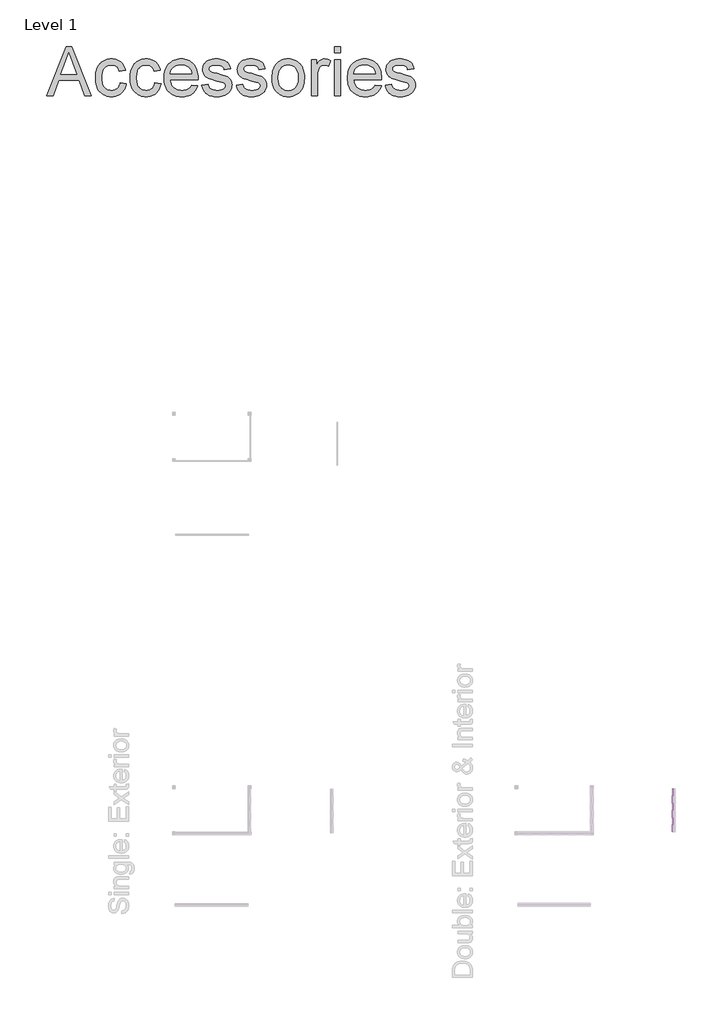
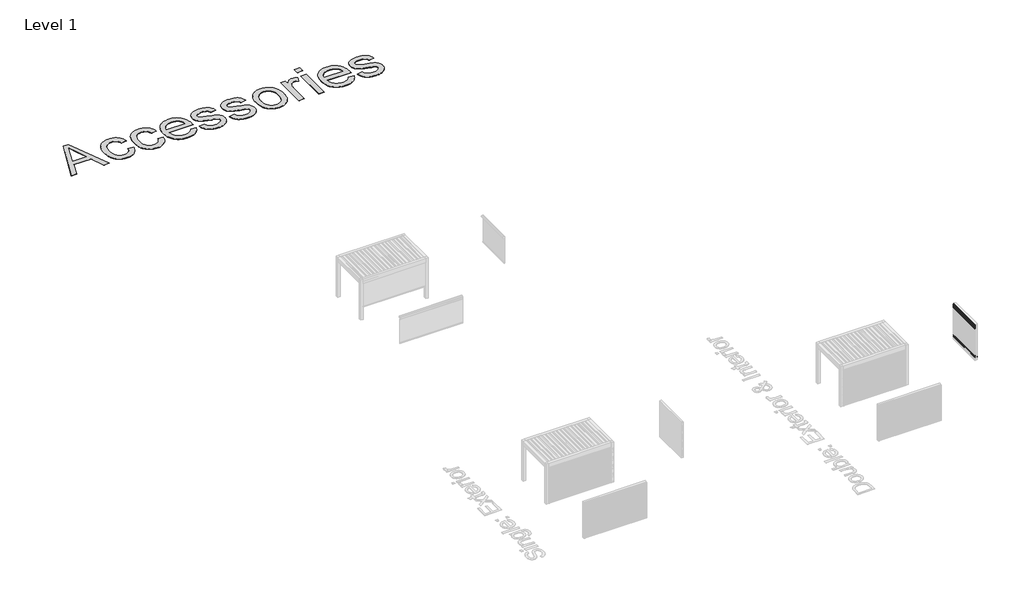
# One storey, part 69 of 69: 13 proxies.
"""IFC4 building model written with IfcOpenShell, lengths in millimetres."""

from ifc_helpers import new_model, si_unit, frame, origin, origin_with_axes, place, context, project, spatial, polyline, outline, extrude, element, save

model = new_model("IFC4")

# Units and contexts
model_context = context("Model", 3, world=origin())
ifc_project = project(units=[si_unit("LENGTHUNIT", "METRE", prefix="MILLI")], contexts=[model_context])

# Site, building, storey
site = spatial("IfcSite", under=ifc_project)
building = spatial("IfcBuilding", under=site)
storey = spatial("IfcBuildingStorey", under=building, Name="Level 1", Elevation=0.0)

# Proxies
placement = place(None, origin())
element("IfcBuildingElementProxy", 1, Name="Wall Sweeps", at=placement, inside=storey, context=model_context, shape_type="SweptSolid", body=[
    extrude(outline(polyline([(1974.0, 232428.6900207), (1960.5, 232428.6900207), (1961.2216933, 232429.9400207), (1973.2782281, 232429.9400207), (1984.3345698, 232449.0900207), (1998.0, 232449.0900207), (1998.0, 232447.8400207), (1985.0562577, 232447.8400207), (1974.0, 232428.6900207)])), frame((0.0, 39672.1593685, 0.0), z_axis=(0.0, 1.0, 0.0), x_axis=(0.0, 0.0, 1.0)), (0.0, 0.0, 1.0), 2200.0),
])
element("IfcBuildingElementProxy", 2, Name="Wall Sweeps", at=placement, inside=storey, context=model_context, shape_type="SweptSolid", body=[
    extrude(outline(polyline([(176.0, 232580.4900207), (187.0562577, 232561.3400207), (200.0, 232561.3400207), (200.0, 232560.0900207), (186.3345698, 232560.0900207), (175.2782281, 232579.2400207), (163.2216933, 232579.2400207), (162.5, 232580.4900207), (176.0, 232580.4900207)])), frame((0.0, 39672.1593685, 0.0), z_axis=(0.0, 1.0, 0.0), x_axis=(0.0, 0.0, 1.0)), (0.0, 0.0, 1.0), 2200.0),
])
element("IfcBuildingElementProxy", 3, Name="Wall Sweeps", at=placement, inside=storey, context=model_context, shape_type="SweptSolid", body=[
    extrude(outline(polyline([(176.0, 232428.6900207), (162.5, 232428.6900207), (163.2216933, 232429.9400207), (175.2782281, 232429.9400207), (186.3345698, 232449.0900207), (200.0, 232449.0900207), (200.0, 232447.8400207), (187.0562577, 232447.8400207), (176.0, 232428.6900207)])), frame((0.0, 39672.1593685, 0.0), z_axis=(0.0, 1.0, 0.0), x_axis=(0.0, 0.0, 1.0)), (0.0, 0.0, 1.0), 2200.0),
])
element("IfcBuildingElementProxy", 4, Name="Wall Sweeps", at=placement, inside=storey, context=model_context, shape_type="SweptSolid", body=[
    extrude(outline(polyline([(2007.3, 232428.6900207), (1993.8, 232428.6900207), (1994.5216933, 232429.9400207), (2006.5782281, 232429.9400207), (2017.6345698, 232449.0900207), (2031.3, 232449.0900207), (2031.3, 232447.8400207), (2018.3562577, 232447.8400207), (2007.3, 232428.6900207)])), frame((0.0, 39672.1593685, 0.0), z_axis=(0.0, 1.0, 0.0), x_axis=(0.0, 0.0, 1.0)), (0.0, 0.0, 1.0), 2200.0),
])
element("IfcBuildingElementProxy", 5, Name="Wall Sweeps", at=placement, inside=storey, context=model_context, shape_type="SweptSolid", body=[
    extrude(outline(polyline([(2040.6, 232428.6900207), (2027.1, 232428.6900207), (2027.8216933, 232429.9400207), (2039.8782281, 232429.9400207), (2050.9345698, 232449.0900207), (2064.6, 232449.0900207), (2064.6, 232447.8400207), (2051.6562577, 232447.8400207), (2040.6, 232428.6900207)])), frame((0.0, 39672.1593685, 0.0), z_axis=(0.0, 1.0, 0.0), x_axis=(0.0, 0.0, 1.0)), (0.0, 0.0, 1.0), 2200.0),
])
element("IfcBuildingElementProxy", 6, Name="Wall Sweeps", at=placement, inside=storey, context=model_context, shape_type="SweptSolid", body=[
    extrude(outline(polyline([(2073.9, 232428.6900207), (2060.4, 232428.6900207), (2061.1216933, 232429.9400207), (2073.1782281, 232429.9400207), (2084.2345698, 232449.0900207), (2097.9, 232449.0900207), (2097.9, 232447.8400207), (2084.9562577, 232447.8400207), (2073.9, 232428.6900207)])), frame((0.0, 39672.1593685, 0.0), z_axis=(0.0, 1.0, 0.0), x_axis=(0.0, 0.0, 1.0)), (0.0, 0.0, 1.0), 2200.0),
])
element("IfcBuildingElementProxy", 7, Name="Wall Sweeps", at=placement, inside=storey, context=model_context, shape_type="SweptSolid", body=[
    extrude(outline(polyline([(2107.2, 232428.6900207), (2093.7, 232428.6900207), (2094.4216933, 232429.9400207), (2106.4782281, 232429.9400207), (2117.5345698, 232449.0900207), (2131.2, 232449.0900207), (2131.2, 232447.8400207), (2118.2562577, 232447.8400207), (2107.2, 232428.6900207)])), frame((0.0, 39672.1593685, 0.0), z_axis=(0.0, 1.0, 0.0), x_axis=(0.0, 0.0, 1.0)), (0.0, 0.0, 1.0), 2200.0),
])
element("IfcBuildingElementProxy", 8, Name="Wall Sweeps", at=placement, inside=storey, context=model_context, shape_type="SweptSolid", body=[
    extrude(outline(polyline([(2140.5, 232428.6900207), (2127.0, 232428.6900207), (2127.7216933, 232429.9400207), (2139.7782281, 232429.9400207), (2150.8345698, 232449.0900207), (2164.5, 232449.0900207), (2164.5, 232447.8400207), (2151.5562577, 232447.8400207), (2140.5, 232428.6900207)])), frame((0.0, 39672.1593685, 0.0), z_axis=(0.0, 1.0, 0.0), x_axis=(0.0, 0.0, 1.0)), (0.0, 0.0, 1.0), 2200.0),
])
element("IfcBuildingElementProxy", 9, Name="Wall Sweeps", at=placement, inside=storey, context=model_context, shape_type="SweptSolid", body=[
    extrude(outline(polyline([(2173.8, 232428.6900207), (2160.3, 232428.6900207), (2161.0216933, 232429.9400207), (2173.0782281, 232429.9400207), (2184.1345698, 232449.0900207), (2197.8, 232449.0900207), (2197.8, 232447.8400207), (2184.8562577, 232447.8400207), (2173.8, 232428.6900207)])), frame((0.0, 39672.1593685, 0.0), z_axis=(0.0, 1.0, 0.0), x_axis=(0.0, 0.0, 1.0)), (0.0, 0.0, 1.0), 2200.0),
])
element("IfcBuildingElementProxy", 10, Name="Wall Sweeps", at=placement, inside=storey, context=model_context, shape_type="SweptSolid", body=[
    extrude(outline(polyline([(2207.1, 232428.6900207), (2193.6, 232428.6900207), (2194.3216933, 232429.9400207), (2206.3782281, 232429.9400207), (2217.4345698, 232449.0900207), (2231.1, 232449.0900207), (2231.1, 232447.8400207), (2218.1562577, 232447.8400207), (2207.1, 232428.6900207)])), frame((0.0, 39672.1593685, 0.0), z_axis=(0.0, 1.0, 0.0), x_axis=(0.0, 0.0, 1.0)), (0.0, 0.0, 1.0), 2200.0),
])
element("IfcBuildingElementProxy", 11, Name="Wall Sweeps", at=placement, inside=storey, context=model_context, shape_type="SweptSolid", body=[
    extrude(outline(polyline([(242.6, 232428.6900207), (229.1, 232428.6900207), (229.8216933, 232429.9400207), (241.8782281, 232429.9400207), (252.9345698, 232449.0900207), (266.6, 232449.0900207), (266.6, 232447.8400207), (253.6562577, 232447.8400207), (242.6, 232428.6900207)])), frame((0.0, 39672.1593685, 0.0), z_axis=(0.0, 1.0, 0.0), x_axis=(0.0, 0.0, 1.0)), (0.0, 0.0, 1.0), 2200.0),
])
element("IfcBuildingElementProxy", 12, Name="Wall Sweeps", at=placement, inside=storey, context=model_context, shape_type="SweptSolid", body=[
    extrude(outline(polyline([(276.0, 232428.6900207), (262.5, 232428.6900207), (263.2216933, 232429.9400207), (275.2782281, 232429.9400207), (286.3345698, 232449.0900207), (300.0, 232449.0900207), (300.0, 232447.8400207), (287.0562577, 232447.8400207), (276.0, 232428.6900207)])), frame((0.0, 39672.1593685, 0.0), z_axis=(0.0, 1.0, 0.0), x_axis=(0.0, 0.0, 1.0)), (0.0, 0.0, 1.0), 2200.0),
])
element("IfcBuildingElementProxy", 13, Name="2500 mm Arial", ObjectType="2500 mm Arial", at=placement, inside=storey, context=model_context, shape_type="SweptSolid", body=[
    extrude(outline(polyline([(200568.2000815, 77108.8344652), (201570.6785183, 79620.2422189), (201838.0061015, 79620.2422189), (202840.4845383, 77108.8344652), (202508.777606, 77108.8344652), (202221.2165131, 77893.6493882), (201186.85497, 77893.6493882), (200899.9070138, 77108.8344652), (200568.2000815, 77108.8344652)]), holes=[polyline([(201302.1246618, 78207.5753575), (202106.559958, 78207.5753575), (201880.3125309, 78825.0039727), (201704.3423099, 79306.3162497), (201547.992462, 78878.9599987), (201302.1246618, 78207.5753575)])]), origin_with_axes(), (0.0, 0.0, 1.0), 5.0),
    extrude(outline(polyline([(204313.851929, 77775.9271498), (204627.7778982, 77736.6864036), (204613.1105197, 77660.4898034), (204593.6338506, 77588.556419), (204569.3478907, 77520.8862505), (204540.2526402, 77457.4792977), (204506.3480991, 77398.3355608), (204467.6342672, 77343.4550397), (204424.1111447, 77292.8377345), (204375.7787316, 77246.4836451), (204323.604634, 77205.0250687), (204268.5564584, 77169.0943024), (204210.6342047, 77138.6913464), (204149.8378728, 77113.8162006), (204086.167463, 77094.4688649), (204019.622975, 77080.6493394), (203950.2044089, 77072.3576241), (203877.9117647, 77069.593719), (203787.6034411, 77073.4497738), (203701.8457411, 77085.0179381), (203620.6386648, 77104.298212), (203543.982212, 77131.2905953), (203471.876383, 77165.9950882), (203404.3211775, 77208.4116907), (203341.3165957, 77258.5404026), (203282.8626375, 77316.3812241), (203230.1951566, 77381.4264014), (203184.5500064, 77453.1681806), (203145.9271871, 77531.6065617), (203114.3266985, 77616.7415448), (203089.7485407, 77708.5731298), (203072.1927137, 77807.1013168), (203061.6592176, 77912.3261057), (203058.1480522, 78024.2474965), (203064.1452951, 78168.5836981), (203071.6418488, 78237.259794), (203082.1370239, 78303.6078866), (203095.6308205, 78367.627976), (203112.1232386, 78429.3200622), (203131.6142782, 78488.6841451), (203154.1039392, 78545.7202247), (203179.6640737, 78599.8439052), (203208.3665335, 78650.4707907), (203240.2113187, 78697.6008812), (203275.1984293, 78741.2341767), (203313.3278653, 78781.3706772), (203354.5996266, 78818.0103827), (203399.0137133, 78851.1532932), (203446.5701254, 78880.7994086), (203496.2294046, 78906.9535192), (203546.9520927, 78929.6204151), (203598.7381897, 78948.8000962), (203651.5876956, 78964.4925625), (203705.5006104, 78976.6978141), (203760.4769341, 78985.415851), (203816.5166667, 78990.6466731), (203873.6198081, 78992.3902805), (203944.9208954, 78989.9952154), (204012.8976322, 78982.8100202), (204077.5500188, 78970.8346949), (204138.8780551, 78954.0692393), (204196.881741, 78932.5136537), (204251.5610766, 78906.1679379), (204302.9160619, 78875.0320919), (204350.9466969, 78839.1061158), (204395.2314501, 78798.77322), (204435.34879, 78754.4166149), (204471.2987168, 78706.0363004), (204503.0812303, 78653.6322766), (204530.6963306, 78597.2045435), (204554.1440176, 78536.7531011), (204573.4242915, 78472.2779493), (204588.5371521, 78403.7790882), (204274.6111829, 78364.5383421), (204250.1048771, 78437.8656543), (204217.6661157, 78501.4977432), (204177.2948988, 78555.4346086), (204128.9912265, 78599.6762507), (204073.9813719, 78634.1460272), (204013.4916084, 78658.7672961), (203947.521936, 78673.5400575), (203876.0723548, 78678.4643113), (203821.4313402, 78676.0405054), (203769.4057367, 78668.7690879), (203719.9955442, 78656.6500586), (203673.2007628, 78639.6834176), (203629.0213925, 78617.8691649), (203587.4574332, 78591.2073006), (203548.508885, 78559.6978245), (203512.1757479, 78523.3407367), (203479.3394057, 78481.7432465), (203450.8812425, 78434.5125632), (203426.8012583, 78381.648687), (203407.099453, 78323.1516176), (203391.7758267, 78259.0213552), (203380.8303793, 78189.2578998), (203374.2631109, 78113.8612513), (203372.0740214, 78032.8314098), (203374.2152096, 77950.5226035), (203380.6387741, 77874.0481757), (203391.344715, 77803.4081264), (203406.3330322, 77738.6024557), (203425.6037258, 77679.6311635), (203449.1567957, 77626.4942498), (203476.992242, 77579.1917146), (203509.1100646, 77537.7235579), (203544.6863612, 77501.582026), (203582.8972293, 77470.2593649), (203623.7426691, 77443.7555748), (203667.2226804, 77422.0706557), (203713.3372633, 77405.2046074), (203762.0864178, 77393.1574301), (203813.4701439, 77385.9291237), (203867.4884415, 77383.5196883), (203952.4270293, 77389.5360917), (203992.1515786, 77397.0565961), (204030.0462982, 77407.5853021), (204066.111188, 77421.1222099), (204100.3462482, 77437.6673194), (204132.7514786, 77457.2206307), (204163.3268793, 77479.7821437), (204191.6317584, 77505.4668215), (204217.2254237, 77534.3896273), (204240.1078754, 77566.5505611), (204260.2791135, 77601.9496229), (204277.7391379, 77640.5868127), (204292.4879486, 77682.4621304), (204304.5255456, 77727.5755761), (204313.851929, 77775.9271498)])), origin_with_axes(), (0.0, 0.0, 1.0), 5.0),
    extrude(outline(polyline([(206079.6855059, 77775.9271498), (206393.6114751, 77736.6864036), (206378.9440966, 77660.4898034), (206359.4674274, 77588.556419), (206335.1814676, 77520.8862505), (206306.0862171, 77457.4792977), (206272.1816759, 77398.3355608), (206233.4678441, 77343.4550397), (206189.9447216, 77292.8377345), (206141.6123084, 77246.4836451), (206089.4382109, 77205.0250687), (206034.3900352, 77169.0943024), (205976.4677815, 77138.6913464), (205915.6714497, 77113.8162006), (205852.0010398, 77094.4688649), (205785.4565518, 77080.6493394), (205716.0379857, 77072.3576241), (205643.7453416, 77069.593719), (205553.437018, 77073.4497738), (205467.679318, 77085.0179381), (205386.4722416, 77104.298212), (205309.8157889, 77131.2905953), (205237.7099598, 77165.9950882), (205170.1547544, 77208.4116907), (205107.1501726, 77258.5404026), (205048.6962144, 77316.3812241), (204996.0287334, 77381.4264014), (204950.3835833, 77453.1681806), (204911.7607639, 77531.6065617), (204880.1602754, 77616.7415448), (204855.5821176, 77708.5731298), (204838.0262906, 77807.1013168), (204827.4927944, 77912.3261057), (204823.981629, 78024.2474965), (204829.9788719, 78168.5836981), (204837.4754256, 78237.259794), (204847.9706008, 78303.6078866), (204861.4643974, 78367.627976), (204877.9568155, 78429.3200622), (204897.447855, 78488.6841451), (204919.9375161, 78545.7202247), (204945.4976505, 78599.8439052), (204974.2001104, 78650.4707907), (205006.0448956, 78697.6008812), (205041.0320062, 78741.2341767), (205079.1614421, 78781.3706772), (205120.4332035, 78818.0103827), (205164.8472902, 78851.1532932), (205212.4037022, 78880.7994086), (205262.0629815, 78906.9535192), (205312.7856696, 78929.6204151), (205364.5717666, 78948.8000962), (205417.4212725, 78964.4925625), (205471.3341873, 78976.6978141), (205526.3105109, 78985.415851), (205582.3502435, 78990.6466731), (205639.453385, 78992.3902805), (205710.7544722, 78989.9952154), (205778.7312091, 78982.8100202), (205843.3835957, 78970.8346949), (205904.7116319, 78954.0692393), (205962.7153179, 78932.5136537), (206017.3946535, 78906.1679379), (206068.7496388, 78875.0320919), (206116.7802737, 78839.1061158), (206161.0650269, 78798.77322), (206201.1823669, 78754.4166149), (206237.1322936, 78706.0363004), (206268.9148071, 78653.6322766), (206296.5299074, 78597.2045435), (206319.9775945, 78536.7531011), (206339.2578683, 78472.2779493), (206354.3707289, 78403.7790882), (206040.4447597, 78364.5383421), (206015.9384539, 78437.8656543), (205983.4996926, 78501.4977432), (205943.1284757, 78555.4346086), (205894.8248033, 78599.6762507), (205839.8149487, 78634.1460272), (205779.3251852, 78658.7672961), (205713.3555129, 78673.5400575), (205641.9059316, 78678.4643113), (205587.264917, 78676.0405054), (205535.2393135, 78668.7690879), (205485.8291211, 78656.6500586), (205439.0343397, 78639.6834176), (205394.8549694, 78617.8691649), (205353.2910101, 78591.2073006), (205314.3424619, 78559.6978245), (205278.0093247, 78523.3407367), (205245.1729826, 78481.7432465), (205216.7148194, 78434.5125632), (205192.6348351, 78381.648687), (205172.9330298, 78323.1516176), (205157.6094035, 78259.0213552), (205146.6639561, 78189.2578998), (205140.0966877, 78113.8612513), (205137.9075982, 78032.8314098), (205140.0487864, 77950.5226035), (205146.4723509, 77874.0481757), (205157.1782918, 77803.4081264), (205172.166609, 77738.6024557), (205191.4373026, 77679.6311635), (205214.9903725, 77626.4942498), (205242.8258188, 77579.1917146), (205274.9436414, 77537.7235579), (205310.519938, 77501.582026), (205348.7308062, 77470.2593649), (205389.5762459, 77443.7555748), (205433.0562573, 77422.0706557), (205479.1708402, 77405.2046074), (205527.9199947, 77393.1574301), (205579.3037207, 77385.9291237), (205633.3220184, 77383.5196883), (205718.2606061, 77389.5360917), (205757.9851554, 77397.0565961), (205795.879875, 77407.5853021), (205831.9447649, 77421.1222099), (205866.179825, 77437.6673194), (205898.5850555, 77457.2206307), (205929.1604562, 77479.7821437), (205957.4653352, 77505.4668215), (205983.0590006, 77534.3896273), (206005.9414523, 77566.5505611), (206026.1126903, 77601.9496229), (206043.5727147, 77640.5868127), (206058.3215254, 77682.4621304), (206070.3591225, 77727.5755761), (206079.6855059, 77775.9271498)])), origin_with_axes(), (0.0, 0.0, 1.0), 5.0),
    extrude(outline(polyline([(207959.5625012, 77658.2049113), (208267.3571039, 77618.9641652), (208245.8254689, 77555.4949408), (208220.1647417, 77495.6853758), (208190.3749223, 77439.5354702), (208156.4560107, 77387.0452241), (208118.408007, 77338.2146374), (208076.2309111, 77293.0437101), (208029.9247229, 77251.5324422), (207979.4894426, 77213.6808338), (207925.1741569, 77179.9104163), (207867.2279525, 77150.6427211), (207805.6508295, 77125.8777483), (207740.4427879, 77105.6154977), (207671.6038275, 77089.8559696), (207599.1339486, 77078.5991637), (207523.0331509, 77071.8450802), (207443.3014347, 77069.593719), (207343.2547764, 77073.4785146), (207248.5155824, 77085.1329012), (207159.0838526, 77104.556879), (207074.959587, 77131.7504478), (206996.1427856, 77166.7136077), (206922.6334484, 77209.4463588), (206854.4315754, 77259.9487009), (206791.5371665, 77318.2206341), (206735.0615321, 77383.5053179), (206686.1159823, 77455.0459116), (206644.7005171, 77532.8424153), (206610.8151364, 77616.894829), (206584.4598404, 77707.2031526), (206565.6346289, 77803.7673862), (206554.339502, 77906.5875298), (206550.5744597, 78015.6635833), (206554.377823, 78128.4519877), (206565.787913, 78234.7449756), (206584.8047297, 78334.5425471), (206611.4282731, 78427.8447021), (206645.6585431, 78514.6514406), (206687.4955398, 78594.9627626), (206736.9392631, 78668.7786681), (206793.9897132, 78736.0991572), (206857.104468, 78796.1673892), (206924.7411056, 78848.2265236), (206996.8996261, 78892.2765605), (207073.5800295, 78928.3174997), (207154.7823157, 78956.3493413), (207240.5064848, 78976.3720853), (207330.7525368, 78988.3857317), (207425.5204716, 78992.3902805), (207517.1891922, 78988.395312), (207604.5755364, 78976.4104063), (207687.6795043, 78956.4355636), (207766.5010958, 78928.4707838), (207841.040311, 78892.516067), (207911.2971499, 78848.571413), (207977.2716124, 78796.636822), (208038.9636985, 78736.7122939), (208094.7926654, 78669.545089), (208143.17777, 78595.8824676), (208184.1190123, 78515.7244297), (208217.6163924, 78429.0709754), (208243.6699103, 78335.9221046), (208262.2795659, 78236.2778173), (208273.4453593, 78130.1381135), (208277.1672904, 78017.5029933), (208275.3278804, 77932.8901344), (206864.5004289, 77932.8901344), (206871.3455249, 77868.3095998), (206882.683763, 77807.6186508), (206898.5151431, 77750.8172876), (206918.8396653, 77697.90551), (206943.6573296, 77648.8833181), (206972.9681359, 77603.7507118), (207006.7720844, 77562.5076913), (207045.0691749, 77525.1542564), (207086.8630604, 77491.9586545), (207131.1573939, 77463.1891328), (207177.9521753, 77438.8456914), (207227.2474046, 77418.9283303), (207279.0430818, 77403.4370494), (207333.339207, 77392.3718488), (207390.1357802, 77385.7327284), (207449.4328013, 77383.5196883), (207536.2682805, 77387.6200397), (207616.5125407, 77399.9210939), (207690.1655818, 77420.4228509), (207757.2274039, 77449.1253107), (207817.6980068, 77486.7948942), (207871.5773907, 77534.1980221), (207918.8655555, 77591.3346945), (207959.5625012, 77658.2049113)]), holes=[polyline([(206864.5004289, 78246.8161036), (207963.2413212, 78246.8161036), (207947.1081629, 78335.644277), (207935.2190598, 78375.6322835), (207920.7816076, 78412.6695698), (207903.7958061, 78446.7561359), (207884.2616553, 78477.8919818), (207862.1791554, 78506.0771076), (207837.5483062, 78531.3115132), (207796.2190633, 78565.8004503), (207751.9391002, 78595.6908624), (207704.708417, 78620.9827495), (207654.5270136, 78641.6761118), (207601.39489, 78657.7709491), (207545.3120462, 78669.2672614), (207486.2784823, 78676.1650488), (207424.2941982, 78678.4643113), (207367.9574776, 78676.6296914), (207313.9104392, 78671.1258319), (207262.153083, 78661.9527327), (207212.6854089, 78649.1103938), (207165.5074171, 78632.5988151), (207120.6191075, 78612.4179968), (207078.0204802, 78588.5679388), (207037.711535, 78561.0486412), (207000.7365204, 78530.4540799), (206968.1396848, 78497.3782313), (206939.9210281, 78461.8210952), (206916.0805503, 78423.7826717), (206896.6182515, 78383.2629608), (206881.5341317, 78340.2619625), (206870.8281908, 78294.7796768), (206864.5004289, 78246.8161036)])]), origin_with_axes(), (0.0, 0.0, 1.0), 5.0),
    extrude(outline(polyline([(208473.3710212, 77658.2049113), (208787.2969904, 77697.4456575), (208795.3348288, 77660.5424948), (208806.2659058, 77625.8619526), (208820.0902214, 77593.4040307), (208836.8077756, 77563.1687292), (208856.4185684, 77535.1560482), (208878.9225998, 77509.3659875), (208904.3198698, 77485.7985471), (208932.6103785, 77464.4537272), (208963.8324468, 77445.4848118), (208998.0243957, 77429.0450852), (209035.1862254, 77415.1345472), (209075.3179358, 77403.753198), (209164.4909986, 77388.5780657), (209265.5435841, 77383.5196883), (209366.4812065, 77388.1565342), (209453.46997, 77402.0670722), (209491.7335296, 77412.4999756), (209526.5098744, 77425.2513021), (209557.7990045, 77440.3210515), (209585.6009199, 77457.709224), (209631.2029589, 77496.4134755), (209663.7758439, 77538.3366946), (209675.1763536, 77560.5054169), (209683.3195749, 77583.4788811), (209688.2055076, 77607.2570871), (209689.8341519, 77631.840035), (209688.1959274, 77653.6255469), (209683.2812538, 77674.2231065), (209675.0901313, 77693.6327139), (209663.6225597, 77711.854369), (209630.8580695, 77744.7338223), (209584.9877833, 77772.8614665), (209537.2014449, 77791.5621346), (209467.418829, 77812.7153493), (209261.8647642, 77862.3794187), (209106.0897318, 77905.3181453), (208975.3766604, 77945.2295097), (208869.7255499, 77982.1135118), (208789.1364004, 78015.9701516), (208725.1977432, 78051.4362752), (208669.4981098, 78093.1487285), (208622.0375004, 78141.1075116), (208582.8159147, 78195.3126243), (208552.1016002, 78254.1354225), (208530.1628042, 78315.9472619), (208516.9995265, 78380.7481425), (208512.6117673, 78448.5380643), (208516.1373031, 78510.5223484), (208526.7139105, 78570.169049), (208544.3415894, 78627.478166), (208569.0203399, 78682.4496996), (208599.792136, 78733.9723394), (208635.6989515, 78780.9347754), (208676.7407866, 78823.3370074), (208722.9176412, 78861.1790356), (208762.9822898, 78887.4481093), (208809.5998363, 78911.6861678), (208862.770281, 78933.8932112), (208922.4936236, 78954.0692393), (208986.623886, 78970.8346949), (209053.0150898, 78982.8100202), (209121.6672351, 78989.9952154), (209192.5803217, 78992.3902805), (209298.0781481, 78988.5390159), (209396.9081132, 78976.985222), (209489.0702172, 78957.7288988), (209574.5644601, 78930.7700463), (209651.3598266, 78897.2391353), (209717.4253015, 78858.2666364), (209772.760885, 78813.8525497), (209817.3665769, 78763.9968752), (209853.5416397, 78706.9560054), (209883.585336, 78640.986333), (209907.4976657, 78566.0878581), (209925.2786288, 78482.2605805), (209611.3526596, 78443.0198344), (209596.388293, 78495.4621792), (209571.728703, 78541.8114785), (209537.3738896, 78582.0677322), (209493.3238528, 78616.2309404), (209439.3869874, 78643.4580402), (209375.3716881, 78662.9059686), (209301.277955, 78674.5747256), (209217.1057881, 78678.4643113), (209119.4637752, 78674.7471703), (209036.8436104, 78663.5957473), (208969.2452938, 78645.0100424), (208941.0793286, 78632.9293341), (208916.6688253, 78618.9900554), (208877.236474, 78588.0266541), (208849.0705087, 78554.6107062), (208832.1709296, 78518.7422117), (208826.5377365, 78480.4211706), (208828.87532, 78455.6274569), (208835.8880706, 78432.1366587), (208847.5759881, 78409.9487759), (208863.9390727, 78389.0638084), (208885.2838926, 78368.8686197), (208911.9170162, 78350.5894831), (208943.8384435, 78334.2263985), (208981.0481745, 78319.779366), (209071.6391158, 78295.7137521), (209251.441441, 78252.9474702), (209528.8091369, 78170.9404421), (209632.2567875, 78136.0299736), (209712.2136399, 78105.1815355), (209776.7462732, 78073.106824), (209833.9212667, 78034.5175356), (209883.7386202, 77989.4136701), (209926.1983338, 77937.7952277), (209960.1316157, 77879.5855661), (209984.3696743, 77814.7080434), (209998.9125094, 77743.1626596), (210003.7601211, 77664.9494146), (209998.0694465, 77586.3912802), (209980.9974226, 77510.1324083), (209952.5440496, 77436.1727988), (209912.7093273, 77364.5124518), (209888.6868246, 77330.2582312), (209862.1447135, 77298.0062849), (209833.0829939, 77267.756613), (209801.5016658, 77239.5092156), (209730.7801844, 77189.0212438), (209649.9802691, 77146.5423697), (209561.3053798, 77112.877335), (209466.9589765, 77088.8308817), (209366.941059, 77074.4030097), (209261.2516275, 77069.593719), (209174.0999996, 77071.912142), (209092.294157, 77078.867411), (209015.8340996, 77090.459526), (208944.7198275, 77106.6884869), (208878.9513406, 77127.5542938), (208818.5286389, 77153.0569467), (208763.4517225, 77183.1964456), (208713.7205913, 77217.9727904), (208668.7891706, 77257.3093392), (208628.1113854, 77301.1294498), (208591.6872358, 77349.4331222), (208559.5167217, 77402.2203564), (208531.5998432, 77459.4911524), (208507.9366003, 77521.2455102), (208488.5269929, 77587.4834299), (208473.3710212, 77658.2049113)])), origin_with_axes(), (0.0, 0.0, 1.0), 5.0),
    extrude(outline(polyline([(210239.204598, 77658.2049113), (210553.1305672, 77697.4456575), (210561.1684056, 77660.5424948), (210572.0994826, 77625.8619526), (210585.9237982, 77593.4040307), (210602.6413524, 77563.1687292), (210622.2521452, 77535.1560482), (210644.7561767, 77509.3659875), (210670.1534467, 77485.7985471), (210698.4439553, 77464.4537272), (210729.6660236, 77445.4848118), (210763.8579726, 77429.0450852), (210801.0198023, 77415.1345472), (210841.1515126, 77403.753198), (210930.3245754, 77388.5780657), (211031.377161, 77383.5196883), (211132.3147834, 77388.1565342), (211219.3035468, 77402.0670722), (211257.5671064, 77412.4999756), (211292.3434513, 77425.2513021), (211323.6325814, 77440.3210515), (211351.4344968, 77457.709224), (211397.0365357, 77496.4134755), (211429.6094207, 77538.3366946), (211441.0099305, 77560.5054169), (211449.1531517, 77583.4788811), (211454.0390845, 77607.2570871), (211455.6677287, 77631.840035), (211454.0295042, 77653.6255469), (211449.1148307, 77674.2231065), (211440.9237081, 77693.6327139), (211429.4561366, 77711.854369), (211396.6916464, 77744.7338223), (211350.8213601, 77772.8614665), (211303.0350218, 77791.5621346), (211233.2524058, 77812.7153493), (211027.698341, 77862.3794187), (210871.9233087, 77905.3181453), (210741.2102373, 77945.2295097), (210635.5591268, 77982.1135118), (210554.9699772, 78015.9701516), (210491.03132, 78051.4362752), (210435.3316867, 78093.1487285), (210387.8710772, 78141.1075116), (210348.6494916, 78195.3126243), (210317.9351771, 78254.1354225), (210295.996381, 78315.9472619), (210282.8331034, 78380.7481425), (210278.4453442, 78448.5380643), (210281.9708799, 78510.5223484), (210292.5474873, 78570.169049), (210310.1751662, 78627.478166), (210334.8539168, 78682.4496996), (210365.6257128, 78733.9723394), (210401.5325284, 78780.9347754), (210442.5743635, 78823.3370074), (210488.7512181, 78861.1790356), (210528.8158666, 78887.4481093), (210575.4334132, 78911.6861678), (210628.6038578, 78933.8932112), (210688.3272005, 78954.0692393), (210752.4574628, 78970.8346949), (210818.8486667, 78982.8100202), (210887.5008119, 78989.9952154), (210958.4138986, 78992.3902805), (211063.9117249, 78988.5390159), (211162.7416901, 78976.985222), (211254.9037941, 78957.7288988), (211340.3980369, 78930.7700463), (211417.1934034, 78897.2391353), (211483.2588784, 78858.2666364), (211538.5944618, 78813.8525497), (211583.2001537, 78763.9968752), (211619.3752166, 78706.9560054), (211649.4189129, 78640.986333), (211673.3312425, 78566.0878581), (211691.1122056, 78482.2605805), (211377.1862364, 78443.0198344), (211362.2218698, 78495.4621792), (211337.5622799, 78541.8114785), (211303.2074665, 78582.0677322), (211259.1574296, 78616.2309404), (211205.2205642, 78643.4580402), (211141.2052649, 78662.9059686), (211067.1115318, 78674.5747256), (210982.9393649, 78678.4643113), (210885.297352, 78674.7471703), (210802.6771873, 78663.5957473), (210735.0788707, 78645.0100424), (210706.9129054, 78632.9293341), (210682.5024022, 78618.9900554), (210643.0700508, 78588.0266541), (210614.9040856, 78554.6107062), (210598.0045064, 78518.7422117), (210592.3713134, 78480.4211706), (210594.7088969, 78455.6274569), (210601.7216474, 78432.1366587), (210613.409565, 78409.9487759), (210629.7726496, 78389.0638084), (210651.1174695, 78368.8686197), (210677.7505931, 78350.5894831), (210709.6720204, 78334.2263985), (210746.8817514, 78319.779366), (210837.4726927, 78295.7137521), (211017.2750178, 78252.9474702), (211294.6427138, 78170.9404421), (211398.0903644, 78136.0299736), (211478.0472168, 78105.1815355), (211542.5798501, 78073.106824), (211599.7548435, 78034.5175356), (211649.572197, 77989.4136701), (211692.0319106, 77937.7952277), (211725.9651926, 77879.5855661), (211750.2032511, 77814.7080434), (211764.7460862, 77743.1626596), (211769.5936979, 77664.9494146), (211763.9030233, 77586.3912802), (211746.8309995, 77510.1324083), (211718.3776264, 77436.1727988), (211678.5429041, 77364.5124518), (211654.5204015, 77330.2582312), (211627.9782903, 77298.0062849), (211598.9165707, 77267.756613), (211567.3352427, 77239.5092156), (211496.6137612, 77189.0212438), (211415.8138459, 77146.5423697), (211327.1389567, 77112.877335), (211232.7925533, 77088.8308817), (211132.7746359, 77074.4030097), (211027.0852043, 77069.593719), (210939.9335765, 77071.912142), (210858.1277339, 77078.867411), (210781.6676765, 77090.459526), (210710.5534043, 77106.6884869), (210644.7849174, 77127.5542938), (210584.3622158, 77153.0569467), (210529.2852994, 77183.1964456), (210479.5541682, 77217.9727904), (210434.6227474, 77257.3093392), (210393.9449622, 77301.1294498), (210357.5208126, 77349.4331222), (210325.3502985, 77402.2203564), (210297.4334201, 77459.4911524), (210273.7701771, 77521.2455102), (210254.3605698, 77587.4834299), (210239.204598, 77658.2049113)])), origin_with_axes(), (0.0, 0.0, 1.0), 5.0),
    extrude(outline(polyline([(212044.278921, 78030.9919998), (212048.5229763, 78154.5486168), (212061.2551422, 78269.8470494), (212082.4754188, 78376.8872976), (212112.183806, 78475.6693614), (212150.3803037, 78566.1932409), (212197.0649121, 78648.4589361), (212252.2376311, 78722.4664468), (212315.8984608, 78788.2157732), (212374.1656039, 78836.0691733), (212435.5367513, 78877.5421201), (212500.0119031, 78912.6346136), (212567.5910591, 78941.3466537), (212638.2742196, 78963.6782404), (212712.0613843, 78979.6293738), (212788.9525534, 78989.2000538), (212868.9477269, 78992.3902805), (212957.617826, 78988.505485), (213042.1396724, 78976.8510983), (213122.5132661, 78957.4271206), (213198.7386071, 78930.2335517), (213270.8156954, 78895.2703918), (213338.744531, 78852.5376408), (213402.5251139, 78802.0352987), (213462.1574441, 78743.7633654), (213516.1182602, 78678.6415461), (213562.8843008, 78607.5895457), (213602.4555659, 78530.6073641), (213634.8320556, 78447.6950014), (213660.0137697, 78358.8524576), (213678.0007084, 78264.0797327), (213688.7928717, 78163.3768266), (213692.3902594, 78056.7437394), (213690.7999362, 77970.3585324), (213686.0289666, 77888.7059739), (213678.0773505, 77811.7860641), (213666.9450881, 77739.5988028), (213652.6321792, 77672.1441901), (213635.1386239, 77609.4222259), (213614.4644222, 77551.4329104), (213590.6095741, 77498.1762434), (213563.7129933, 77448.7085694), (213533.9135937, 77402.0862327), (213501.2113752, 77358.3092333), (213465.6063378, 77317.3775712), (213427.0984816, 77279.2912464), (213385.6878064, 77244.0502589), (213341.3743125, 77211.6546088), (213294.1579996, 77182.1042959), (213244.9298321, 77155.7346295), (213194.5807742, 77132.8809185), (213143.1108257, 77113.5431631), (213090.5199869, 77097.7213633), (213036.8082576, 77085.4155189), (212981.9756378, 77076.6256301), (212926.0221275, 77071.3516968), (212868.9477269, 77069.593719), (212778.8789097, 77073.4641442), (212693.2265926, 77085.0754197), (212611.9907755, 77104.4275455), (212535.1714583, 77131.5205216), (212462.7686412, 77166.354348), (212394.782324, 77208.9290247), (212331.2125069, 77259.2445518), (212272.0591897, 77317.3009291), (212218.6731892, 77382.6383043), (212172.4053221, 77454.7968248), (212133.2555885, 77533.7764907), (212101.2239882, 77619.5773018), (212076.3105213, 77712.1992583), (212058.5151878, 77811.6423602), (212047.8379877, 77917.9066073), (212044.278921, 78030.9919998)]), holes=[polyline([(212358.2048902, 78031.6051364), (212360.4754119, 77952.9176685), (212367.286977, 77879.3364794), (212378.6395854, 77810.8615689), (212394.5332373, 77747.4929372), (212414.9679325, 77689.2305843), (212439.943671, 77636.0745101), (212469.460453, 77588.0247146), (212503.5182783, 77545.0811978), (212541.0154171, 77507.215219), (212580.8501394, 77474.3980374), (212623.0224452, 77446.6296529), (212667.5323345, 77423.9100657), (212714.3798073, 77406.2392755), (212763.5648637, 77393.6172826), (212815.0875035, 77386.0440869), (212868.9477269, 77383.5196883), (212922.5205424, 77386.0584572), (212973.7940955, 77393.6747642), (213022.7683861, 77406.3686091), (213069.4434142, 77424.1399919), (213113.8191799, 77446.9889127), (213155.8956831, 77474.9153714), (213195.6729238, 77507.9193681), (213233.1509021, 77546.0009028), (213267.2087274, 77589.2845188), (213296.7255094, 77637.8947595), (213321.701248, 77691.831625), (213342.1359432, 77751.0951151), (213358.029595, 77815.68523), (213369.3822034, 77885.6019696), (213376.1937685, 77960.8453339), (213378.4642902, 78041.415323), (213376.1793981, 78117.5161206), (213369.3247219, 78188.8555289), (213357.9002615, 78255.4335477), (213341.9060169, 78317.2501773), (213321.3419882, 78374.3054174), (213296.2081753, 78426.5992682), (213266.5045783, 78474.1317297), (213232.2311971, 78516.9028017), (213194.5664038, 78554.7687805), (213154.6885703, 78587.5859622), (213112.5976967, 78615.3543466), (213068.293783, 78638.0739339), (213021.7768292, 78655.744724), (212973.0468352, 78668.3667169), (212922.1038011, 78675.9399127), (212868.9477269, 78678.4643113), (212815.0875035, 78675.949493), (212763.5648637, 78668.405038), (212714.3798073, 78655.8309464), (212667.5323345, 78638.2272181), (212623.0224452, 78615.5938531), (212580.8501394, 78587.9308515), (212541.0154171, 78555.2382133), (212503.5182783, 78517.5159384), (212469.460453, 78474.7161255), (212439.943671, 78426.7908734), (212414.9679325, 78373.7401821), (212394.5332373, 78315.5640515), (212378.6395854, 78252.2624816), (212367.286977, 78183.8354725), (212360.4754119, 78110.2830241), (212358.2048902, 78031.6051364)])]), origin_with_axes(), (0.0, 0.0, 1.0), 5.0),
    extrude(outline(polyline([(214045.5569748, 77108.8344652), (214045.5569748, 78953.1495344), (214320.2421978, 78953.1495344), (214320.2421978, 78680.3037213), (214371.9756034, 78767.522411), (214421.7163148, 78838.4929792), (214469.4643321, 78893.215426), (214515.2196553, 78931.6897513), (214561.0516205, 78958.2462328), (214609.0295641, 78977.2151482), (214659.1534859, 78988.5964974), (214711.423386, 78992.3902805), (214789.2917417, 78986.335556), (214867.773234, 78968.1713825), (214946.867863, 78937.89776), (215026.5756286, 78895.5146884), (214921.72926, 78614.0849621), (214866.5469607, 78642.2509274), (214811.3646614, 78662.369474), (214756.1823621, 78674.440602), (214701.0000628, 78678.4643113), (214652.8879957, 78674.5938861), (214607.2667962, 78662.9826107), (214564.1364643, 78643.6304849), (214523.4970002, 78616.5375088), (214486.8812453, 78582.5850663), (214455.8220415, 78542.6545414), (214430.3193886, 78496.7459341), (214410.3732867, 78444.8592444), (214388.1087617, 78359.1733963), (214372.2055297, 78269.50216), (214362.6635904, 78175.8455354), (214359.482944, 78078.2035225), (214359.482944, 77108.8344652), (214045.5569748, 77108.8344652)])), origin_with_axes(), (0.0, 0.0, 1.0), 5.0),
    extrude(outline(polyline([(215222.7793593, 79306.3162497), (215222.7793593, 79620.2422189), (215536.7053286, 79620.2422189), (215536.7053286, 79306.3162497), (215222.7793593, 79306.3162497)])), origin_with_axes(), (0.0, 0.0, 1.0), 5.0),
    extrude(outline(polyline([(215222.7793593, 77108.8344652), (215222.7793593, 78953.1495344), (215536.7053286, 78953.1495344), (215536.7053286, 77108.8344652), (215222.7793593, 77108.8344652)])), origin_with_axes(), (0.0, 0.0, 1.0), 5.0),
    extrude(outline(polyline([(217298.8600855, 77658.2049113), (217606.6546881, 77618.9641652), (217585.1230531, 77555.4949408), (217559.4623259, 77495.6853758), (217529.6725065, 77439.5354702), (217495.753595, 77387.0452241), (217457.7055912, 77338.2146374), (217415.5284953, 77293.0437101), (217369.2223072, 77251.5324422), (217318.7870269, 77213.6808338), (217264.4717411, 77179.9104163), (217206.5255368, 77150.6427211), (217144.9484137, 77125.8777483), (217079.7403721, 77105.6154977), (217010.9014118, 77089.8559696), (216938.4315328, 77078.5991637), (216862.3307352, 77071.8450802), (216782.5990189, 77069.593719), (216682.5523607, 77073.4785146), (216587.8131666, 77085.1329012), (216498.3814368, 77104.556879), (216414.2571712, 77131.7504478), (216335.4403698, 77166.7136077), (216261.9310326, 77209.4463588), (216193.7291596, 77259.9487009), (216130.8347508, 77318.2206341), (216074.3591164, 77383.5053179), (216025.4135665, 77455.0459116), (215983.9981013, 77532.8424153), (215950.1127206, 77616.894829), (215923.7574246, 77707.2031526), (215904.9322131, 77803.7673862), (215893.6370862, 77906.5875298), (215889.8720439, 78015.6635833), (215893.6754073, 78128.4519877), (215905.0854973, 78234.7449756), (215924.1023139, 78334.5425471), (215950.7258573, 78427.8447021), (215984.9561273, 78514.6514406), (216026.793124, 78594.9627626), (216076.2368474, 78668.7786681), (216133.2872974, 78736.0991572), (216196.4020522, 78796.1673892), (216264.0386899, 78848.2265236), (216336.1972104, 78892.2765605), (216412.8776137, 78928.3174997), (216494.0799, 78956.3493413), (216579.804069, 78976.3720853), (216670.050121, 78988.3857317), (216764.8180558, 78992.3902805), (216856.4867764, 78988.395312), (216943.8731206, 78976.4104063), (217026.9770885, 78956.4355636), (217105.7986801, 78928.4707838), (217180.3378953, 78892.516067), (217250.5947341, 78848.571413), (217316.5691966, 78796.636822), (217378.2612827, 78736.7122939), (217434.0902496, 78669.545089), (217482.4753542, 78595.8824676), (217523.4165965, 78515.7244297), (217556.9139767, 78429.0709754), (217582.9674945, 78335.9221046), (217601.5771501, 78236.2778173), (217612.7429435, 78130.1381135), (217616.4648746, 78017.5029933), (217614.6254646, 77932.8901344), (216203.7980131, 77932.8901344), (216210.6431091, 77868.3095998), (216221.9813472, 77807.6186508), (216237.8127273, 77750.8172876), (216258.1372495, 77697.90551), (216282.9549138, 77648.8833181), (216312.2657202, 77603.7507118), (216346.0696686, 77562.5076913), (216384.3667591, 77525.1542564), (216426.1606446, 77491.9586545), (216470.4549781, 77463.1891328), (216517.2497595, 77438.8456914), (216566.5449888, 77418.9283303), (216618.3406661, 77403.4370494), (216672.6367913, 77392.3718488), (216729.4333644, 77385.7327284), (216788.7303855, 77383.5196883), (216875.5658648, 77387.6200397), (216955.810125, 77399.9210939), (217029.4631661, 77420.4228509), (217096.5249881, 77449.1253107), (217156.9955911, 77486.7948942), (217210.8749749, 77534.1980221), (217258.1631397, 77591.3346945), (217298.8600855, 77658.2049113)]), holes=[polyline([(216203.7980131, 78246.8161036), (217302.5389054, 78246.8161036), (217286.4057471, 78335.644277), (217274.5166441, 78375.6322835), (217260.0791918, 78412.6695698), (217243.0933903, 78446.7561359), (217223.5592396, 78477.8919818), (217201.4767396, 78506.0771076), (217176.8458904, 78531.3115132), (217135.5166475, 78565.8004503), (217091.2366844, 78595.6908624), (217044.0060012, 78620.9827495), (216993.8245978, 78641.6761118), (216940.6924742, 78657.7709491), (216884.6096305, 78669.2672614), (216825.5760666, 78676.1650488), (216763.5917825, 78678.4643113), (216707.2550618, 78676.6296914), (216653.2080234, 78671.1258319), (216601.4506672, 78661.9527327), (216551.9829932, 78649.1103938), (216504.8050014, 78632.5988151), (216459.9166918, 78612.4179968), (216417.3180644, 78588.5679388), (216377.0091192, 78561.0486412), (216340.0341046, 78530.4540799), (216307.437269, 78497.3782313), (216279.2186123, 78461.8210952), (216255.3781346, 78423.7826717), (216235.9158358, 78383.2629608), (216220.8317159, 78340.2619625), (216210.1257751, 78294.7796768), (216203.7980131, 78246.8161036)])]), origin_with_axes(), (0.0, 0.0, 1.0), 5.0),
    extrude(outline(polyline([(217812.6686054, 77658.2049113), (218126.5945746, 77697.4456575), (218134.632413, 77660.5424948), (218145.56349, 77625.8619526), (218159.3878056, 77593.4040307), (218176.1053598, 77563.1687292), (218195.7161526, 77535.1560482), (218218.220184, 77509.3659875), (218243.6174541, 77485.7985471), (218271.9079627, 77464.4537272), (218303.130031, 77445.4848118), (218337.32198, 77429.0450852), (218374.4838096, 77415.1345472), (218414.61552, 77403.753198), (218503.7885828, 77388.5780657), (218604.8411683, 77383.5196883), (218705.7787908, 77388.1565342), (218792.7675542, 77402.0670722), (218831.0311138, 77412.4999756), (218865.8074587, 77425.2513021), (218897.0965888, 77440.3210515), (218924.8985041, 77457.709224), (218970.5005431, 77496.4134755), (219003.0734281, 77538.3366946), (219014.4739379, 77560.5054169), (219022.6171591, 77583.4788811), (219027.5030919, 77607.2570871), (219029.1317361, 77631.840035), (219027.4935116, 77653.6255469), (219022.5788381, 77674.2231065), (219014.3877155, 77693.6327139), (219002.9201439, 77711.854369), (218970.1556537, 77744.7338223), (218924.2853675, 77772.8614665), (218876.4990291, 77791.5621346), (218806.7164132, 77812.7153493), (218601.1623484, 77862.3794187), (218445.387316, 77905.3181453), (218314.6742446, 77945.2295097), (218209.0231341, 77982.1135118), (218128.4339846, 78015.9701516), (218064.4953274, 78051.4362752), (218008.7956941, 78093.1487285), (217961.3350846, 78141.1075116), (217922.1134989, 78195.3126243), (217891.3991845, 78254.1354225), (217869.4603884, 78315.9472619), (217856.2971107, 78380.7481425), (217851.9093515, 78448.5380643), (217855.4348873, 78510.5223484), (217866.0114947, 78570.169049), (217883.6391736, 78627.478166), (217908.3179241, 78682.4496996), (217939.0897202, 78733.9723394), (217974.9965358, 78780.9347754), (218016.0383708, 78823.3370074), (218062.2152254, 78861.1790356), (218102.279874, 78887.4481093), (218148.8974206, 78911.6861678), (218202.0678652, 78933.8932112), (218261.7912078, 78954.0692393), (218325.9214702, 78970.8346949), (218392.312674, 78982.8100202), (218460.9648193, 78989.9952154), (218531.877906, 78992.3902805), (218637.3757323, 78988.5390159), (218736.2056974, 78976.985222), (218828.3678014, 78957.7288988), (218913.8620443, 78930.7700463), (218990.6574108, 78897.2391353), (219056.7228857, 78858.2666364), (219112.0584692, 78813.8525497), (219156.6641611, 78763.9968752), (219192.839224, 78706.9560054), (219222.8829202, 78640.986333), (219246.7952499, 78566.0878581), (219264.576213, 78482.2605805), (218950.6502438, 78443.0198344), (218935.6858772, 78495.4621792), (218911.0262872, 78541.8114785), (218876.6714738, 78582.0677322), (218832.621437, 78616.2309404), (218778.6845716, 78643.4580402), (218714.6692723, 78662.9059686), (218640.5755392, 78674.5747256), (218556.4033723, 78678.4643113), (218458.7613594, 78674.7471703), (218376.1411947, 78663.5957473), (218308.542878, 78645.0100424), (218280.3769128, 78632.9293341), (218255.9664096, 78618.9900554), (218216.5340582, 78588.0266541), (218188.368093, 78554.6107062), (218171.4685138, 78518.7422117), (218165.8353208, 78480.4211706), (218168.1729043, 78455.6274569), (218175.1856548, 78432.1366587), (218186.8735724, 78409.9487759), (218203.2366569, 78389.0638084), (218224.5814769, 78368.8686197), (218251.2146005, 78350.5894831), (218283.1360278, 78334.2263985), (218320.3457587, 78319.779366), (218410.9367, 78295.7137521), (218590.7390252, 78252.9474702), (218868.1067211, 78170.9404421), (218971.5543718, 78136.0299736), (219051.5112241, 78105.1815355), (219116.0438575, 78073.106824), (219173.2188509, 78034.5175356), (219223.0362044, 77989.4136701), (219265.495918, 77937.7952277), (219299.4292, 77879.5855661), (219323.6672585, 77814.7080434), (219338.2100936, 77743.1626596), (219343.0577053, 77664.9494146), (219337.3670307, 77586.3912802), (219320.2950069, 77510.1324083), (219291.8416338, 77436.1727988), (219252.0069115, 77364.5124518), (219227.9844088, 77330.2582312), (219201.4422977, 77298.0062849), (219172.3805781, 77267.756613), (219140.7992501, 77239.5092156), (219070.0777686, 77189.0212438), (218989.2778533, 77146.5423697), (218900.602964, 77112.877335), (218806.2565607, 77088.8308817), (218706.2386433, 77074.4030097), (218600.5492117, 77069.593719), (218513.3975839, 77071.912142), (218431.5917412, 77078.867411), (218355.1316838, 77090.459526), (218284.0174117, 77106.6884869), (218218.2489248, 77127.5542938), (218157.8262231, 77153.0569467), (218102.7493067, 77183.1964456), (218053.0181756, 77217.9727904), (218008.0867548, 77257.3093392), (217967.4089696, 77301.1294498), (217930.98482, 77349.4331222), (217898.8143059, 77402.2203564), (217870.8974274, 77459.4911524), (217847.2341845, 77521.2455102), (217827.8245772, 77587.4834299), (217812.6686054, 77658.2049113)])), origin_with_axes(), (0.0, 0.0, 1.0), 5.0),
])

save(model, "model.ifc")
